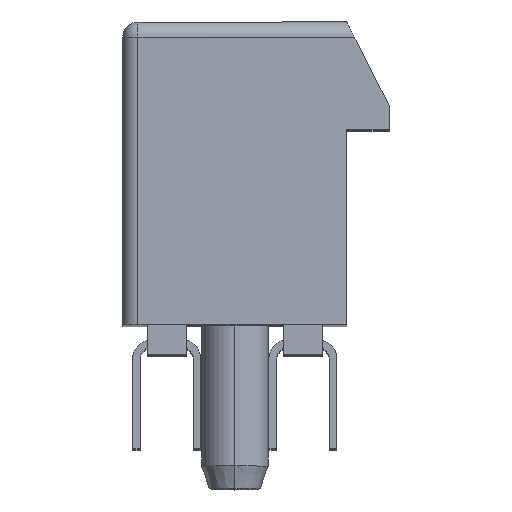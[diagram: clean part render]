
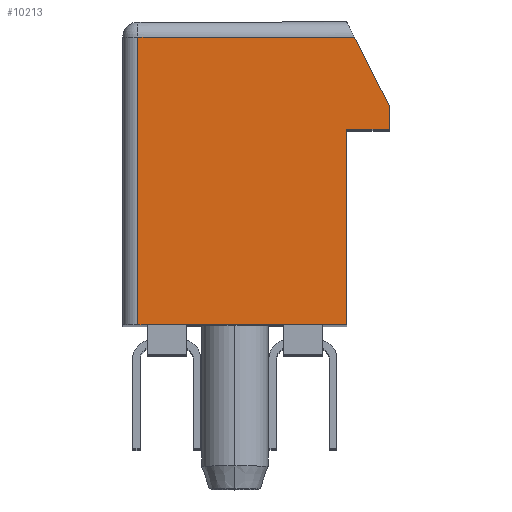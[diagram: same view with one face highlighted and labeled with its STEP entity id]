
A CAD part, top view. The second image highlights one B-rep face of the part: STEP entity #10213.
In plain terms, the highlighted planar face has unit normal (0, 0, 1).
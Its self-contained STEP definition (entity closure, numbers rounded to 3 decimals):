
#808 = VECTOR ( 'NONE', #28229, 1000. ) ;
#912 = VECTOR ( 'NONE', #8694, 1000. ) ;
#2084 = CARTESIAN_POINT ( 'NONE',  ( -3.7, 0., 39. ) ) ;
#2421 = DIRECTION ( 'NONE',  ( 1., 0., 0. ) ) ;
#2486 = DIRECTION ( 'NONE',  ( 0., 0., 1. ) ) ;
#2491 = CARTESIAN_POINT ( 'NONE',  ( 0., 0., 39. ) ) ;
#2499 = CARTESIAN_POINT ( 'NONE',  ( -3.2, 9.5, 39. ) ) ;
#2723 = PLANE ( 'NONE',  #28698 ) ;
#3703 = ORIENTED_EDGE ( 'NONE', *, *, #15261, .T. ) ;
#3905 = ORIENTED_EDGE ( 'NONE', *, *, #15264, .T. ) ;
#3961 = ORIENTED_EDGE ( 'NONE', *, *, #29154, .T. ) ;
#4029 = ORIENTED_EDGE ( 'NONE', *, *, #11490, .T. ) ;
#4144 = ORIENTED_EDGE ( 'NONE', *, *, #15112, .T. ) ;
#4198 = ORIENTED_EDGE ( 'NONE', *, *, #15249, .T. ) ;
#4376 = ORIENTED_EDGE ( 'NONE', *, *, #15448, .T. ) ;
#4900 = CARTESIAN_POINT ( 'NONE',  ( 3.7, 10., 39. ) ) ;
#7000 = LINE ( 'NONE', #28433, #808 ) ;
#7246 = DIRECTION ( 'NONE',  ( -0.454, 0.891, 0. ) ) ;
#7467 = VECTOR ( 'NONE', #7974, 1000. ) ;
#7974 = DIRECTION ( 'NONE',  ( 1., 0., 0. ) ) ;
#8561 = LINE ( 'NONE', #13313, #912 ) ;
#8694 = DIRECTION ( 'NONE',  ( 0., 1., 0. ) ) ;
#8792 = DIRECTION ( 'NONE',  ( 0., -1., 0. ) ) ;
#8922 = CARTESIAN_POINT ( 'NONE',  ( 3.7, 0., 39. ) ) ;
#8957 = LINE ( 'NONE', #2084, #15155 ) ;
#10213 = ADVANCED_FACE ( 'NONE', ( #17292 ), #2723, .T. ) ;
#10760 = VECTOR ( 'NONE', #7246, 1000. ) ;
#11049 = DIRECTION ( 'NONE',  ( -1., 0., 0. ) ) ;
#11490 = EDGE_CURVE ( 'NONE', #26212, #11907, #7000, .T. ) ;
#11882 = VECTOR ( 'NONE', #11049, 1000. ) ;
#11907 = VERTEX_POINT ( 'NONE', #22631 ) ;
#12327 = VERTEX_POINT ( 'NONE', #16778 ) ;
#12591 = LINE ( 'NONE', #28919, #11882 ) ;
#13313 = CARTESIAN_POINT ( 'NONE',  ( 5.1, 7.25, 39. ) ) ;
#14097 = VERTEX_POINT ( 'NONE', #24509 ) ;
#14872 = VERTEX_POINT ( 'NONE', #2499 ) ;
#15112 = EDGE_CURVE ( 'NONE', #11907, #12327, #19025, .T. ) ;
#15155 = VECTOR ( 'NONE', #18310, 1000. ) ;
#15249 = EDGE_CURVE ( 'NONE', #12327, #14097, #8561, .T. ) ;
#15261 = EDGE_CURVE ( 'NONE', #19626, #14872, #12591, .T. ) ;
#15264 = EDGE_CURVE ( 'NONE', #14872, #25213, #17974, .T. ) ;
#15448 = EDGE_CURVE ( 'NONE', #14097, #19626, #18304, .T. ) ;
#15978 = EDGE_LOOP ( 'NONE', ( #3703, #3905, #3961, #4029, #4144, #4198, #4376 ) ) ;
#16778 = CARTESIAN_POINT ( 'NONE',  ( 5.1, 6.45, 39. ) ) ;
#17292 = FACE_OUTER_BOUND ( 'NONE', #15978, .T. ) ;
#17974 = LINE ( 'NONE', #17995, #28937 ) ;
#17995 = CARTESIAN_POINT ( 'NONE',  ( -3.2, 0., 39. ) ) ;
#18304 = LINE ( 'NONE', #4900, #10760 ) ;
#18310 = DIRECTION ( 'NONE',  ( 1., 0., 0. ) ) ;
#19025 = LINE ( 'NONE', #23919, #7467 ) ;
#19626 = VERTEX_POINT ( 'NONE', #21972 ) ;
#21972 = CARTESIAN_POINT ( 'NONE',  ( 3.955, 9.5, 39. ) ) ;
#22631 = CARTESIAN_POINT ( 'NONE',  ( 3.7, 6.45, 39. ) ) ;
#23919 = CARTESIAN_POINT ( 'NONE',  ( 5.1, 6.45, 39. ) ) ;
#24509 = CARTESIAN_POINT ( 'NONE',  ( 5.1, 7.25, 39. ) ) ;
#25213 = VERTEX_POINT ( 'NONE', #27956 ) ;
#26212 = VERTEX_POINT ( 'NONE', #8922 ) ;
#27956 = CARTESIAN_POINT ( 'NONE',  ( -3.2, 0., 39. ) ) ;
#28229 = DIRECTION ( 'NONE',  ( 0., 1., 0. ) ) ;
#28433 = CARTESIAN_POINT ( 'NONE',  ( 3.7, 6.45, 39. ) ) ;
#28698 = AXIS2_PLACEMENT_3D ( 'NONE', #2491, #2486, #2421 ) ;
#28919 = CARTESIAN_POINT ( 'NONE',  ( -3.7, 9.5, 39. ) ) ;
#28937 = VECTOR ( 'NONE', #8792, 1000. ) ;
#29154 = EDGE_CURVE ( 'NONE', #25213, #26212, #8957, .T. ) ;
